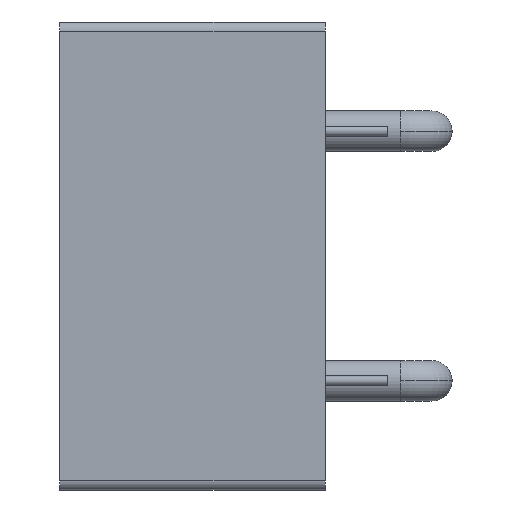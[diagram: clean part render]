
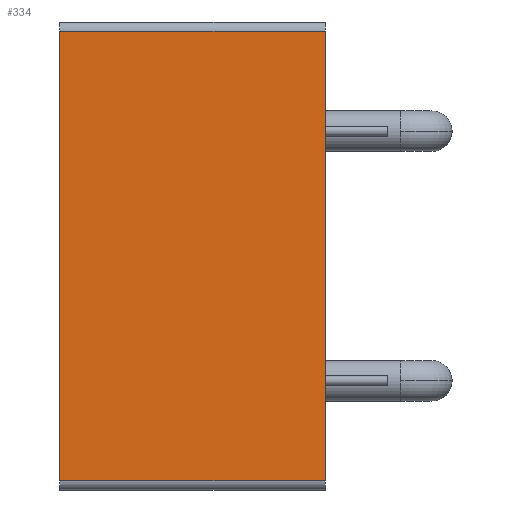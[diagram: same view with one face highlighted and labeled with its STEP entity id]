
A CAD part, left-side view. The second image highlights one B-rep face of the part: STEP entity #334.
In plain terms, the highlighted planar face has unit normal (-1, 0, 0).
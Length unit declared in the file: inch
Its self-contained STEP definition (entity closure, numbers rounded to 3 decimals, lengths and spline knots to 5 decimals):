
#28 = ORIENTED_EDGE ( 'NONE', *, *, #1001, .T. ) ;
#41 = PLANE ( 'NONE',  #1647 ) ;
#43 = VECTOR ( 'NONE', #1203, 39.37008 ) ;
#120 = CARTESIAN_POINT ( 'NONE',  ( -1.25, 0., -0.72 ) ) ;
#234 = CARTESIAN_POINT ( 'NONE',  ( -1.25, 0.85, 0.75 ) ) ;
#253 = EDGE_CURVE ( 'NONE', #1673, #685, #1104, .T. ) ;
#280 = CARTESIAN_POINT ( 'NONE',  ( -1.25, 0.85, -0.72 ) ) ;
#290 = LINE ( 'NONE', #280, #43 ) ;
#320 = VECTOR ( 'NONE', #1255, 39.37008 ) ;
#334 = ADVANCED_FACE ( 'NONE', ( #1354 ), #41, .F. ) ;
#346 = EDGE_CURVE ( 'NONE', #1522, #1673, #290, .T. ) ;
#384 = VECTOR ( 'NONE', #1592, 39.37008 ) ;
#516 = ORIENTED_EDGE ( 'NONE', *, *, #253, .T. ) ;
#563 = DIRECTION ( 'NONE',  ( 1., 0., 0. ) ) ;
#685 = VERTEX_POINT ( 'NONE', #1089 ) ;
#747 = CARTESIAN_POINT ( 'NONE',  ( -1.25, 0.85, -0.72 ) ) ;
#786 = CARTESIAN_POINT ( 'NONE',  ( -1.25, 0.85, 0.72 ) ) ;
#890 = ORIENTED_EDGE ( 'NONE', *, *, #346, .T. ) ;
#1001 = EDGE_CURVE ( 'NONE', #685, #1064, #1188, .T. ) ;
#1064 = VERTEX_POINT ( 'NONE', #786 ) ;
#1078 = CARTESIAN_POINT ( 'NONE',  ( -1.25, 0., 0.75 ) ) ;
#1089 = CARTESIAN_POINT ( 'NONE',  ( -1.25, 0., 0.72 ) ) ;
#1104 = LINE ( 'NONE', #1078, #384 ) ;
#1127 = LINE ( 'NONE', #234, #1635 ) ;
#1188 = LINE ( 'NONE', #1416, #320 ) ;
#1200 = EDGE_CURVE ( 'NONE', #1522, #1064, #1127, .T. ) ;
#1203 = DIRECTION ( 'NONE',  ( 0., -1., 0. ) ) ;
#1255 = DIRECTION ( 'NONE',  ( 0., 1., 0. ) ) ;
#1284 = DIRECTION ( 'NONE',  ( 0., 0., 1. ) ) ;
#1329 = ORIENTED_EDGE ( 'NONE', *, *, #1200, .F. ) ;
#1354 = FACE_OUTER_BOUND ( 'NONE', #1565, .T. ) ;
#1416 = CARTESIAN_POINT ( 'NONE',  ( -1.25, 0.85, 0.72 ) ) ;
#1522 = VERTEX_POINT ( 'NONE', #747 ) ;
#1565 = EDGE_LOOP ( 'NONE', ( #1329, #890, #516, #28 ) ) ;
#1592 = DIRECTION ( 'NONE',  ( 0., 0., 1. ) ) ;
#1609 = CARTESIAN_POINT ( 'NONE',  ( -1.25, 0.85, 0.75 ) ) ;
#1618 = DIRECTION ( 'NONE',  ( 0., 0., -1. ) ) ;
#1635 = VECTOR ( 'NONE', #1284, 39.37008 ) ;
#1647 = AXIS2_PLACEMENT_3D ( 'NONE', #1609, #563, #1618 ) ;
#1673 = VERTEX_POINT ( 'NONE', #120 ) ;
